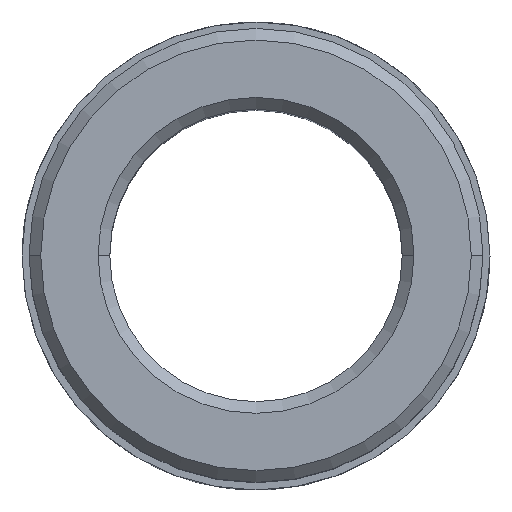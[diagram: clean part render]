
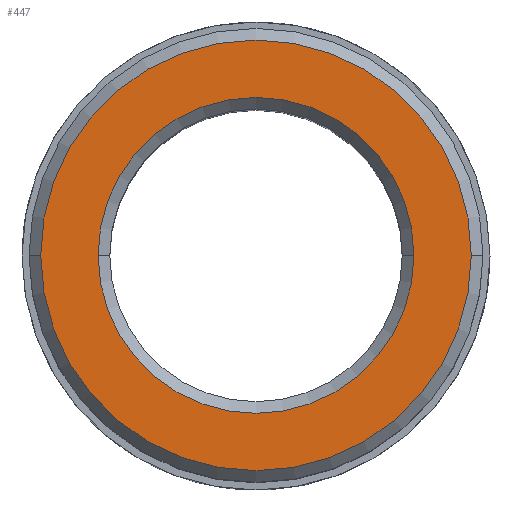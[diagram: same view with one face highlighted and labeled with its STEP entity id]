
A CAD part, top view. The second image highlights one B-rep face of the part: STEP entity #447.
In plain terms, the highlighted planar face has unit normal (0, 0, 1).
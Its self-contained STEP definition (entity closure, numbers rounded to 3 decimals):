
#329=CARTESIAN_POINT('Axis2P3D Location',(0.,0.,36.)) ;
#333=CARTESIAN_POINT('Vertex',(13.5,0.,36.)) ;
#335=CARTESIAN_POINT('Vertex',(-13.5,0.,36.)) ;
#408=CARTESIAN_POINT('Axis2P3D Location',(0.,0.,36.)) ;
#420=CARTESIAN_POINT('Axis2P3D Location',(13.5,0.,36.)) ;
#425=CARTESIAN_POINT('Axis2P3D Location',(0.,0.,36.)) ;
#429=CARTESIAN_POINT('Vertex',(18.4,0.,36.)) ;
#431=CARTESIAN_POINT('Vertex',(-18.4,0.,36.)) ;
#434=CARTESIAN_POINT('Axis2P3D Location',(0.,0.,36.)) ;
#330=DIRECTION('Axis2P3D Direction',(0.,-0.,1.)) ;
#409=DIRECTION('Axis2P3D Direction',(0.,-0.,1.)) ;
#421=DIRECTION('Axis2P3D Direction',(0.,-0.,1.)) ;
#422=DIRECTION('Axis2P3D XDirection',(1.,0.,0.)) ;
#426=DIRECTION('Axis2P3D Direction',(0.,-0.,1.)) ;
#435=DIRECTION('Axis2P3D Direction',(0.,-0.,1.)) ;
#331=AXIS2_PLACEMENT_3D('Circle Axis2P3D',#329,#330,$) ;
#410=AXIS2_PLACEMENT_3D('Circle Axis2P3D',#408,#409,$) ;
#423=AXIS2_PLACEMENT_3D('Plane Axis2P3D',#420,#421,#422) ;
#427=AXIS2_PLACEMENT_3D('Circle Axis2P3D',#425,#426,$) ;
#436=AXIS2_PLACEMENT_3D('Circle Axis2P3D',#434,#435,$) ;
#440=ORIENTED_EDGE('',*,*,#433,.T.) ;
#441=ORIENTED_EDGE('',*,*,#438,.T.) ;
#444=ORIENTED_EDGE('',*,*,#412,.F.) ;
#445=ORIENTED_EDGE('',*,*,#337,.F.) ;
#446=FACE_BOUND('',#443,.T.) ;
#447=ADVANCED_FACE('733-19',(#442,#446),#424,.T.) ;
#332=CIRCLE('generated circle',#331,13.5) ;
#411=CIRCLE('generated circle',#410,13.5) ;
#428=CIRCLE('generated circle',#427,18.4) ;
#437=CIRCLE('generated circle',#436,18.4) ;
#337=EDGE_CURVE('',#334,#336,#332,.T.) ;
#412=EDGE_CURVE('',#336,#334,#411,.T.) ;
#433=EDGE_CURVE('',#430,#432,#428,.T.) ;
#438=EDGE_CURVE('',#432,#430,#437,.T.) ;
#439=EDGE_LOOP('',(#440,#441)) ;
#443=EDGE_LOOP('',(#444,#445)) ;
#442=FACE_OUTER_BOUND('',#439,.T.) ;
#424=PLANE('Plane',#423) ;
#334=VERTEX_POINT('',#333) ;
#336=VERTEX_POINT('',#335) ;
#430=VERTEX_POINT('',#429) ;
#432=VERTEX_POINT('',#431) ;
